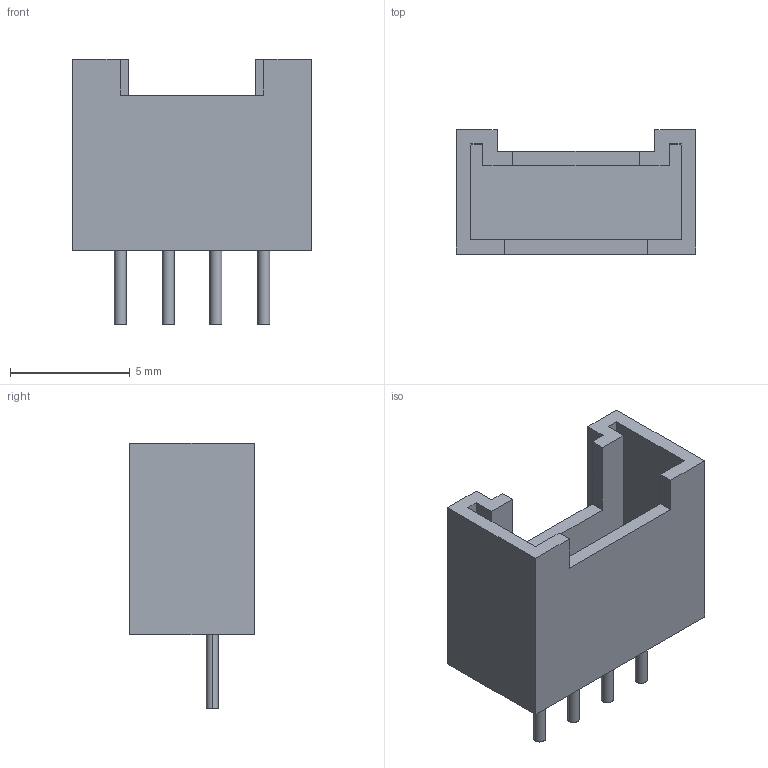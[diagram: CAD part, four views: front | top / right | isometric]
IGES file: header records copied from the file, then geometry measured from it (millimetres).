
Start section: SolidWorks IGES file using analytic representation for surfaces
Global section: file name: C:\Users\AndreBernot\Downloads\K-RACER-L_3D_SW\K-RACER-L_3D_SW\Connecteur grove.IGS; native system: SolidWorks 2015; preprocessor: SolidWorks 2015; author: AndreBernot; date: 170922.151107; units: millimetre
Bounding box: 10 x 5.2 x 11.1 mm (x, y, z)
Surface area: 525.7 mm2 (no closed solid volume)
Topology: 0 solids, 0 shells, 38 faces, 304 edges, 304 vertices
Faces by surface type: bspline 30, revolution 8
